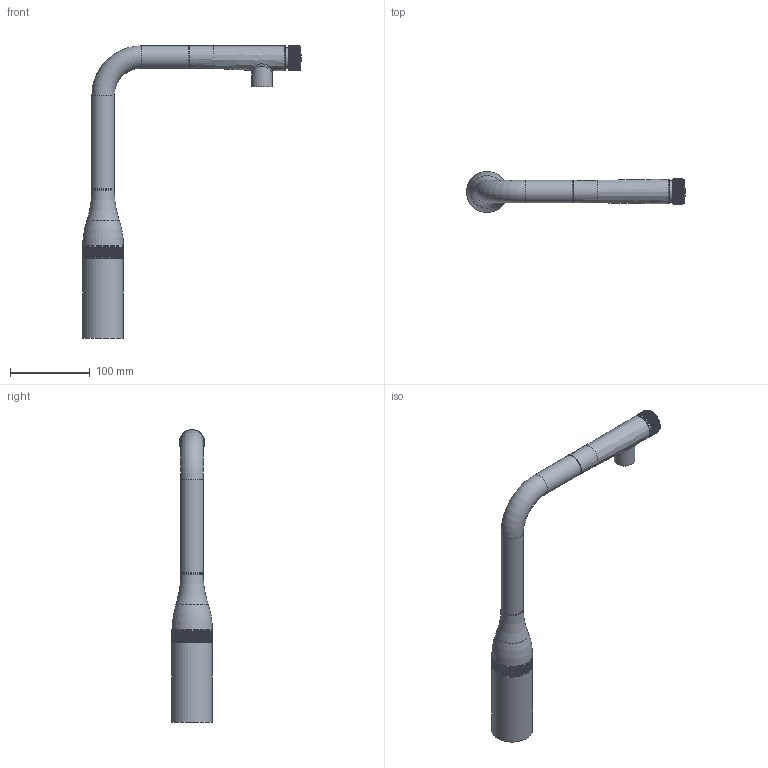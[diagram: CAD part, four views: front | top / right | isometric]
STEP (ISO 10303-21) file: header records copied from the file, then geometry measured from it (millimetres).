
FILE_DESCRIPTION(/* description */ ('Unknown'),/* implementation_level */ '2;1');
FILE_NAME(/* name */ '31615000',/* time_stamp */ '2022-09-09T10:04:44+02:00',/* author */ ('Unknown'),/* organization */ ('GROHE AG'),/* preprocessor_version */ 'ST-DEVELOPER v16.7',/* originating_system */ 'DEX',/* authorisation */ $);
FILE_SCHEMA (('AUTOMOTIVE_DESIGN {1 0 10303 214 3 1 1}'));
Length unit declared in the file: millimetre
Products named in the file (8): 31615000; 31615000_0; 31615000_1; id8318; 20180602_smart kitchen_essence_ASM-20180602_smart kitchen_essence-1-s
olid3; 20180602_smart kitchen_essence_ASM-20180602_smart kitchen_essence-1-s
olid41; 413620038_KAPPE_GRIF_HANDLE_CAP_100095474
Assembly tree (7 placements, depth 2):
  31615000
    31615000
    31615000_0
    31615000_1
    id8318
    20180602_smart kitchen_essence_ASM-20180602_smart kitchen_essence-1-s
olid3
    20180602_smart kitchen_essence_ASM-20180602_smart kitchen_essence-1-s
olid41
    413620038_KAPPE_GRIF_HANDLE_CAP_100095474
Bounding box: 273.38 x 51 x 365.92 mm (x, y, z)
Volume: 210145.1 mm3; surface area: 84850 mm2
Topology: 3 solids, 148 shells, 8965 faces, 25187 edges, 15973 vertices
Faces by surface type: plane 3842, cone 3261, cylinder 1678, bspline 110, torus 65, sphere 9
Full cylindrical faces by diameter (mm): 15.1 x1, 16.5 x1, 22.6 x1, 22.9 x1, 26 x1, 26.7 x1, 26.8 x1, 28 x5, 30.936 x1, 51 x3
Entity records: 294030 total; most frequent: CARTESIAN_POINT 85178, ORIENTED_EDGE 42850, DIRECTION 39396, EDGE_CURVE 25112, AXIS2_PLACEMENT_3D 16389, VERTEX_POINT 15953, B_SPLINE_CURVE_WITH_KNOTS 10968, FACE_BOUND 9031
